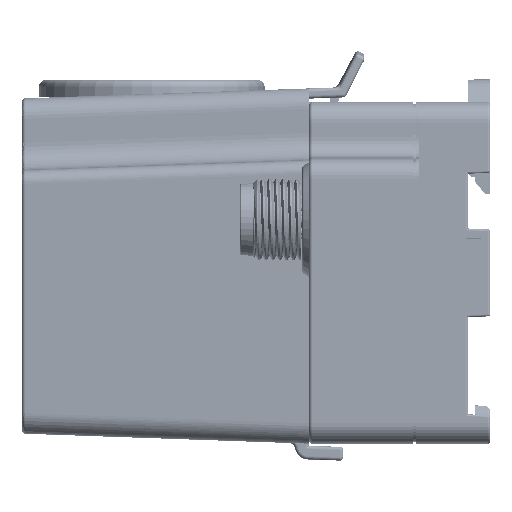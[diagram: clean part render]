
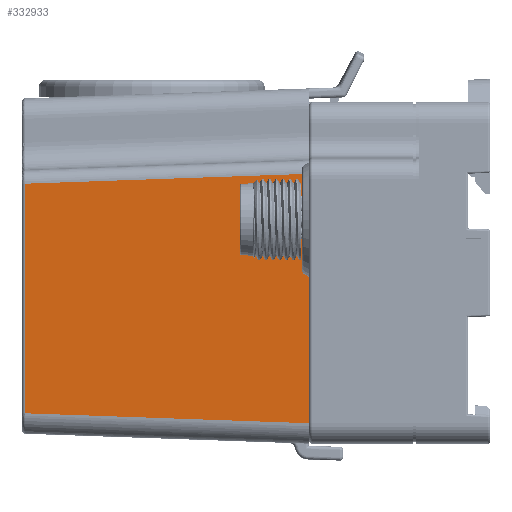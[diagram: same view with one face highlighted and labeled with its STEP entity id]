
A CAD part, left-side view. The second image highlights one B-rep face of the part: STEP entity #332933.
In plain terms, the highlighted planar face has unit normal (-0.999, 0.035, 0).
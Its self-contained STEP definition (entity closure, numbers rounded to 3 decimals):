
#324813=CARTESIAN_POINT('',(-63.5,7.6,-22.002));
#324821=DIRECTION('',(0.,0.,1.));
#324822=VECTOR('',#324821,36.503);
#324823=CARTESIAN_POINT('',(-63.5,7.6,-22.002));
#324824=LINE('',#324823,#324822);
#324831=CARTESIAN_POINT('',(-63.5,7.6,14.501));
#327420=DIRECTION('',(0.,0.,1.));
#327421=VECTOR('',#327420,33.603);
#327422=CARTESIAN_POINT('',(-62.05,49.117,
-20.552));
#327423=LINE('',#327422,#327421);
#327424=DIRECTION('',(0.035,0.999,-0.035));
#327425=VECTOR('',#327424,41.568);
#327426=CARTESIAN_POINT('',(-63.5,7.6,14.501));
#327427=LINE('',#327426,#327425);
#327428=DIRECTION('',(-0.035,-0.999,
-0.035));
#327429=VECTOR('',#327428,41.568);
#327430=CARTESIAN_POINT('',(-62.05,49.117,
-20.552));
#327431=LINE('',#327430,#327429);
#327442=CARTESIAN_POINT('',(-62.05,49.117,
-20.552));
#328434=VERTEX_POINT('',#324813);
#328701=VERTEX_POINT('',#324831);
#328732=VERTEX_POINT('',#327442);
#328735=CARTESIAN_POINT('',(-62.05,49.117,
13.051));
#328736=VERTEX_POINT('',#328735);
#332921=CARTESIAN_POINT('',(-63.5,7.6,-27.2));
#332922=DIRECTION('',(-0.999,0.035,0.));
#332923=DIRECTION('',(0.,0.,-1.));
#332924=AXIS2_PLACEMENT_3D('',#332921,#332922,#332923);
#332925=PLANE('',#332924);
#332926=ORIENTED_EDGE('',*,*,#329354,.T.);
#332927=ORIENTED_EDGE('',*,*,#332916,.F.);
#332928=ORIENTED_EDGE('',*,*,#329077,.F.);
#332930=ORIENTED_EDGE('',*,*,#332929,.F.);
#332931=EDGE_LOOP('',(#332926,#332927,#332928,#332930));
#332932=FACE_OUTER_BOUND('',#332931,.F.);
#329077=EDGE_CURVE('',#328434,#328701,#324824,.T.);
#329354=EDGE_CURVE('',#328732,#328736,#327423,.T.);
#332916=EDGE_CURVE('',#328701,#328736,#327427,.T.);
#332929=EDGE_CURVE('',#328732,#328434,#327431,.T.);
#332933=ADVANCED_FACE('',(#332932),#332925,.T.);
